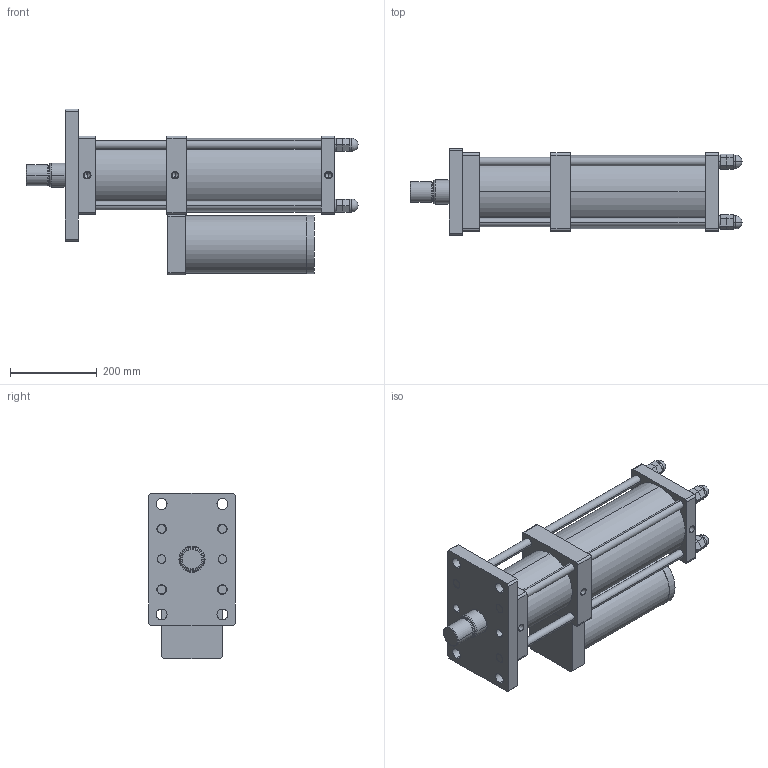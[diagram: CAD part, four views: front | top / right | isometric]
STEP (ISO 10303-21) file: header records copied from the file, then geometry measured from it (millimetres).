
FILE_DESCRIPTION (( 'STEP AP203' ), '1' );
FILE_NAME ('MPT-125-100-20-15T.STEP', '2016-03-12T01:01:16', ( 'WIN' ), ( '' ), 'SwSTEP 2.0', 'SolidWorks 2014', '' );
FILE_SCHEMA (( 'CONFIG_CONTROL_DESIGN' ));
Length unit declared in the file: millimetre
Products named in the file (1): MPT-125-100-20-15T
Bounding box: 766 x 200 x 382.5 mm (x, y, z)
Volume: 9287531 mm3; surface area: 1396659 mm2
Topology: 17 solids, 17 shells, 322 faces, 738 edges, 462 vertices
Faces by surface type: plane 154, cylinder 126, cone 30, sphere 8, torus 4
Entity records: 9037 total; most frequent: DIRECTION 1666, CARTESIAN_POINT 1491, ORIENTED_EDGE 1428, EDGE_CURVE 714, AXIS2_PLACEMENT_3D 629, VERTEX_POINT 454, VECTOR 408, LINE 408
